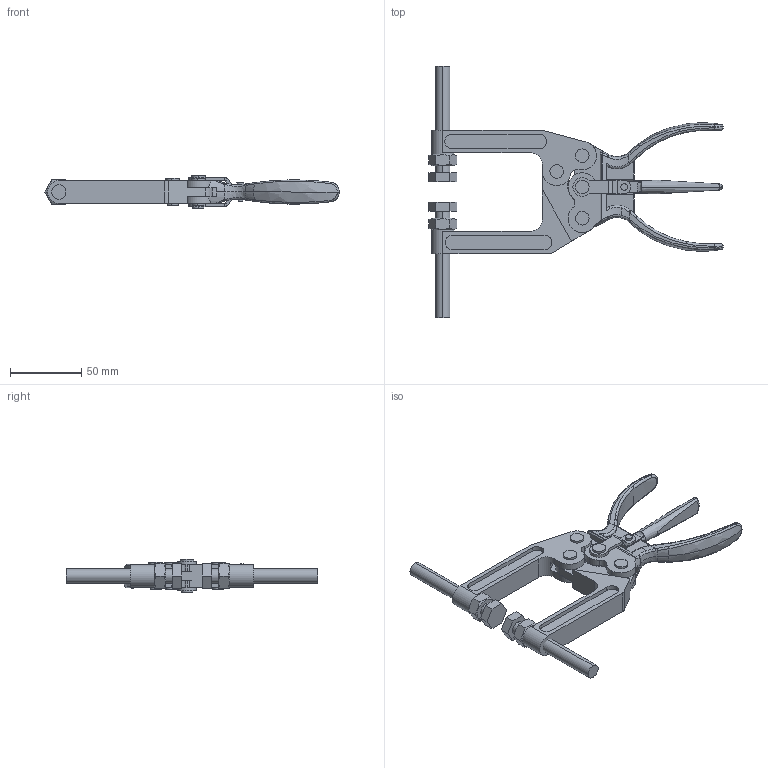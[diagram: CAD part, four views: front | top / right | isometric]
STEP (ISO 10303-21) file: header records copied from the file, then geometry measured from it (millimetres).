
FILE_DESCRIPTION (( 'STEP AP203' ), '1' );
FILE_NAME ('KFA-45-2.STEP', '2014-09-04T17:53:46', ( 'Ricardo' ), ( '' ), 'SwSTEP 2.0', 'SolidWorks 2013', '' );
FILE_SCHEMA (( 'CONFIG_CONTROL_DESIGN' ));
Length unit declared in the file: millimetre
Products named in the file (12): 03.30004; 18.30001; 18.10013; 06.50039; 06.50013; 06.50047; 01.30008; 12.50004; 01.30009; 11.50003; 03.30003; KFA-45-2
Assembly tree (16 placements, depth 2):
  KFA-45-2
    01.30008
    01.30009
    03.30003
    03.30004
    18.30001
    18.10013  x2
    06.50039  x3
    06.50013
    06.50047
    12.50004  x2
    11.50003  x2
Bounding box: 206.81 x 177 x 23.5 mm (x, y, z)
Volume: 112247.7 mm3; surface area: 53940.4 mm2
Topology: 17 solids, 17 shells, 447 faces, 1090 edges, 680 vertices
Faces by surface type: cylinder 189, plane 149, bspline 79, cone 26, sphere 4
Entity records: 16970 total; most frequent: CARTESIAN_POINT 7280, ORIENTED_EDGE 1816, DIRECTION 1611, EDGE_CURVE 908, AXIS2_PLACEMENT_3D 627, VERTEX_POINT 574, EDGE_LOOP 414, FACE_OUTER_BOUND 368
